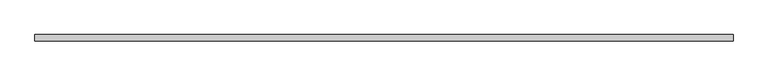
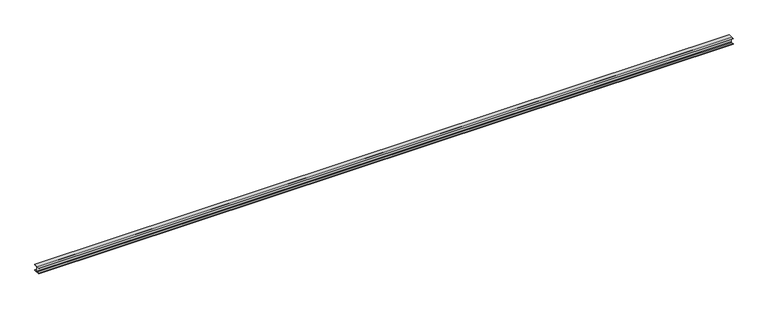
"""IFC4 building model written with IfcOpenShell, lengths in millimetres: beam geometry, Membrure Haute 52164 : Membrure Haute 52164."""

import ifcopenshell
import ifcopenshell.guid

model = None  # the IFC model being written
_history = None  # IfcOwnerHistory: only IFC2X3 demands one
_inside = {}  # id of a spatial element -> (the spatial element, [elements in it])
_under = {}  # id of a project, library or spatial element -> (it, [spatial elements below it])
_declared = {}  # id of a project -> (the project, [libraries it declares])
_typed = {}  # id of a type object -> (the type object, [elements of that type])
_made_of = {}  # id of a material, layer set ... -> (it, [elements and type objects made of it])


def new_model(schema):
    """Start an empty IFC model of exactly this schema.

    Asked for "IFC4X3", IfcOpenShell would pick the latest addendum, in which some entities
    have other attributes; the version numbers below select the first issue.
    IFC2X3 requires an IfcOwnerHistory on every rooted entity: one is made here for all.
    """
    global model, _history
    if schema == "IFC4X3":
        model = ifcopenshell.file(schema_version=(4, 3, 0, 0))
    else:
        model = ifcopenshell.file(schema=schema)
    _inside.clear()
    _under.clear()
    _declared.clear()
    _typed.clear()
    _made_of.clear()
    _history = None
    if model.schema == "IFC2X3":
        org = make("IfcOrganization", Name="unknown")
        user = make(
            "IfcPersonAndOrganization",
            ThePerson=make("IfcPerson", FamilyName="unknown"),
            TheOrganization=org,
        )
        app = make(
            "IfcApplication",
            ApplicationDeveloper=org,
            Version="unknown",
            ApplicationFullName="unknown",
            ApplicationIdentifier="unknown",
        )
        _history = make(
            "IfcOwnerHistory",
            OwningUser=user,
            OwningApplication=app,
            ChangeAction="ADDED",
            CreationDate=0,
        )
    return model


def make(cls, **values):
    """One entity of the class cls with the attributes given. An attribute that is None is left unset."""
    return model.create_entity(
        cls, **{name: value for name, value in values.items() if value is not None}
    )


def rooted(cls, **values):
    """An entity with a GlobalId (a new one), such as an element, a storey or a relation."""
    return make(cls, GlobalId=ifcopenshell.guid.new(), OwnerHistory=_history, **values)


def si_unit(unit_type, name, prefix=None):
    """IfcSIUnit, for example si_unit("LENGTHUNIT", "METRE", prefix="MILLI")."""
    return make("IfcSIUnit", UnitType=unit_type, Prefix=prefix, Name=name)


def assignment(units):
    """IfcUnitAssignment: the units of a project."""
    return None if units is None else make("IfcUnitAssignment", Units=units)


def point(xyz):
    """IfcCartesianPoint."""
    return None if xyz is None else make("IfcCartesianPoint", Coordinates=xyz)


def direction(xyz):
    """IfcDirection."""
    return None if xyz is None else make("IfcDirection", DirectionRatios=xyz)


def frame(location, z_axis=None, x_axis=None):
    """IfcAxis2Placement3D, a coordinate frame: its origin and axes. An axis left out is left unset."""
    return make(
        "IfcAxis2Placement3D",
        Location=point(location),
        Axis=direction(z_axis),
        RefDirection=direction(x_axis),
    )


def origin():
    """The frame at (0, 0, 0) with its axes left unset."""
    return frame((0.0, 0.0, 0.0))


def place(relative_to, where):
    """IfcLocalPlacement: puts the frame where relative to a parent placement (None: the world)."""
    return make(
        "IfcLocalPlacement", PlacementRelTo=relative_to, RelativePlacement=where
    )


def context(
    kind, dimensions, precision=None, world=None, true_north=None, identifier=None
):
    """IfcGeometricRepresentationContext, for example the 3D "Model" context."""
    return make(
        "IfcGeometricRepresentationContext",
        ContextIdentifier=identifier,
        ContextType=kind,
        CoordinateSpaceDimension=dimensions,
        Precision=precision,
        WorldCoordinateSystem=world,
        TrueNorth=true_north,
    )


def project(units=None, contexts=None):
    """IfcProject with its units and contexts."""
    return rooted(
        "IfcProject",
        Name="project",
        RepresentationContexts=contexts,
        UnitsInContext=assignment(units),
    )


def spatial(cls, under=None, at=None, **own):
    """A site, building, storey or space (cls), placed at a placement, below another one or the project."""
    s = rooted(cls, ObjectPlacement=at, **own)
    if under is not None:
        _under.setdefault(under.id(), (under, []))[1].append(s)
    return s


def polyline(points):
    """IfcPolyline through the points."""
    return make("IfcPolyline", Points=[point(p) for p in points])


def outline(outer, holes=None, kind="AREA"):
    """IfcArbitraryClosedProfileDef: a profile drawn as a closed curve; with holes, ...WithVoids."""
    if holes is None:
        return make("IfcArbitraryClosedProfileDef", ProfileType=kind, OuterCurve=outer)
    return make(
        "IfcArbitraryProfileDefWithVoids",
        ProfileType=kind,
        OuterCurve=outer,
        InnerCurves=holes,
    )


def extrude(swept, where, along, depth):
    """IfcExtrudedAreaSolid: the profile swept, set in the frame where, extruded along a direction by depth."""
    return make(
        "IfcExtrudedAreaSolid",
        SweptArea=swept,
        Position=where,
        ExtrudedDirection=direction(along),
        Depth=depth,
    )


def shape(context_of_items, identifier, shape_type, items):
    """IfcShapeRepresentation: the items that make up one representation, for example the "Body"."""
    return make(
        "IfcShapeRepresentation",
        ContextOfItems=context_of_items,
        RepresentationIdentifier=identifier,
        RepresentationType=shape_type,
        Items=items,
    )


def source(mapping_origin, context_of_items, identifier, shape_type, items):
    """IfcRepresentationMap: a shape defined once, which mapped items show again and again."""
    return make(
        "IfcRepresentationMap",
        MappingOrigin=mapping_origin,
        MappedRepresentation=shape(context_of_items, identifier, shape_type, items),
    )


def transform(
    local_origin,
    x_axis=None,
    y_axis=None,
    z_axis=None,
    scale=None,
    scale2=None,
    scale3=None,
    uniform=True,
):
    """IfcCartesianTransformationOperator3D, or its non-uniform kind. x_axis, y_axis, z_axis: its Axis1, 2, 3."""
    if uniform:
        return make(
            "IfcCartesianTransformationOperator3D",
            Axis1=direction(x_axis),
            Axis2=direction(y_axis),
            LocalOrigin=point(local_origin),
            Scale=scale,
            Axis3=direction(z_axis),
        )
    return make(
        "IfcCartesianTransformationOperator3DnonUniform",
        Axis1=direction(x_axis),
        Axis2=direction(y_axis),
        LocalOrigin=point(local_origin),
        Scale=scale,
        Axis3=direction(z_axis),
        Scale2=scale2,
        Scale3=scale3,
    )


def mapped(mapping_source, mapping_target):
    """IfcMappedItem: shows the shape of a source again, moved by a transform."""
    return make(
        "IfcMappedItem", MappingSource=mapping_source, MappingTarget=mapping_target
    )


def made_of(thing, what):
    """Note that an element or type object is made of a material, layer set ...; save() writes the relation."""
    if what is not None:
        _made_of.setdefault(what.id(), (what, []))[1].append(thing)
    return thing


def element(
    cls,
    number,
    at=None,
    inside=None,
    cuts=None,
    type_object=None,
    material=None,
    context=None,
    identifier="Body",
    shape_type=None,
    held_by="IfcProductDefinitionShape",
    body=None,
    shapes=None,
    **own,
):
    """One element of the class cls, such as IfcWall. Its Tag is "e" and its number.

    at: its placement. inside: the storey or other place that contains it. cuts: it is an
    opening in that element (IfcRelVoidsElement). A single representation is given by context,
    identifier, shape_type and body (its items); several are given by shapes. held_by: the class
    of the entity that holds the representations. save() writes the other relations.
    """
    e = rooted(cls, Tag="e%d" % number, ObjectPlacement=at, **own)
    if body is not None:
        shapes = [shape(context, identifier, shape_type, body)]
    if shapes is not None:
        e.Representation = make(held_by, Representations=shapes)
    if inside is not None:
        _inside.setdefault(inside.id(), (inside, []))[1].append(e)
    if cuts is not None:
        rooted(
            "IfcRelVoidsElement", RelatingBuildingElement=cuts, RelatedOpeningElement=e
        )
    if type_object is not None:
        _typed.setdefault(type_object.id(), (type_object, []))[1].append(e)
    return made_of(e, material)


def aggregate(whole, parts):
    """IfcRelAggregates: a whole, such as a stair, and the parts it consists of."""
    return rooted("IfcRelAggregates", RelatingObject=whole, RelatedObjects=parts)


def save(model, path):
    """Write the relations noted so far, then the file.

    IfcRelAggregates (storeys below a building ...), IfcRelContainedInSpatialStructure (elements
    in a storey), IfcRelDefinesByType, IfcRelAssociatesMaterial and IfcRelDeclares: one each for
    every whole, place, type object, material and project.
    """
    for whole, parts in _under.values():
        aggregate(whole, parts)
    for where, things in _inside.values():
        rooted(
            "IfcRelContainedInSpatialStructure",
            RelatedElements=things,
            RelatingStructure=where,
        )
    for kind, things in _typed.values():
        rooted("IfcRelDefinesByType", RelatedObjects=things, RelatingType=kind)
    for what, things in _made_of.values():
        rooted("IfcRelAssociatesMaterial", RelatedObjects=things, RelatingMaterial=what)
    for by, libraries in _declared.values():
        rooted("IfcRelDeclares", RelatingContext=by, RelatedDefinitions=libraries)
    model.write(path)


def beam_a878d21b(model_context):
    return source(origin(), model_context, "Body", "SweptSolid", [
        extrude(outline(polyline([(-34330.0, 7401.5), (-34385.25, 7401.5), (-34397.25, 7389.5), (-34397.25, 7297.5), (-34385.25, 7285.5), (-34330.0, 7285.5), (-34330.0, 7277.0), (-34470.0, 7277.0), (-34470.0, 7285.5), (-34414.75, 7285.5), (-34402.75, 7297.5), (-34402.75, 7389.5), (-34414.75, 7401.5), (-34470.0, 7401.5), (-34470.0, 7410.0), (-34330.0, 7410.0), (-34330.0, 7401.5)])), frame((179.9999999, 0.0, 0.0), z_axis=(1.0, 0.0, 0.0), x_axis=(0.0, 1.0, 0.0)), (0.0, 0.0, 1.0), 15210.0),
    ])


if __name__ == "__main__":
    model = new_model("IFC4")
    model_context = context("Model", 3, world=origin())
    ifc_project = project(units=[si_unit("LENGTHUNIT", "METRE", prefix="MILLI")], contexts=[model_context])
    site = spatial("IfcSite", under=ifc_project)
    building = spatial("IfcBuilding", under=site)
    placement = place(None, origin())
    beam_shape = beam_a878d21b(model_context)
    element("IfcBeam", 1, ObjectType="Membrure Haute 52164 : Membrure Haute 52164", at=placement, inside=building, context=model_context, shape_type="MappedRepresentation", body=[
        mapped(beam_shape, transform((0.0, 0.0, 0.0), x_axis=(1.0, 0.0, 0.0), y_axis=(0.0, 1.0, 0.0), z_axis=(0.0, 0.0, 1.0))),
    ])
    save(model, "model.ifc")
